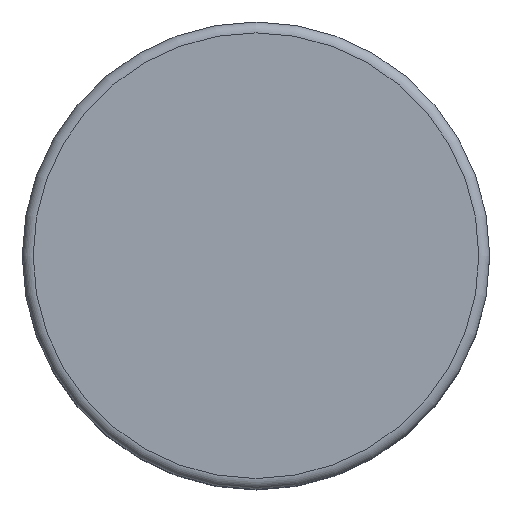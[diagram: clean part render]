
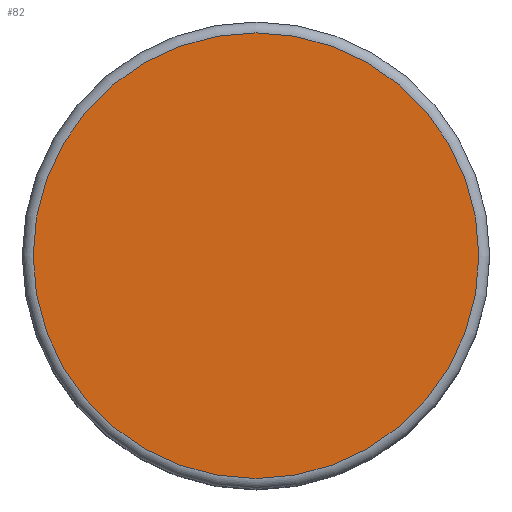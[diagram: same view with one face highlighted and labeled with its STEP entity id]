
A CAD part, top view. The second image highlights one B-rep face of the part: STEP entity #82.
In plain terms, the highlighted planar face has unit normal (0, 0, 1).
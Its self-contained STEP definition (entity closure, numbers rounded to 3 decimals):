
#82 = ADVANCED_FACE( '', ( #114 ), #115, .F. );
#114 = FACE_OUTER_BOUND( '', #164, .T. );
#115 = PLANE( '', #165 );
#164 = EDGE_LOOP( '', ( #252 ) );
#165 = AXIS2_PLACEMENT_3D( '', #253, #254, #255 );
#252 = ORIENTED_EDGE( '', *, *, #328, .T. );
#253 = CARTESIAN_POINT( '', ( 0., 0., 29.7 ) );
#254 = DIRECTION( '', ( 0., 0., -1. ) );
#255 = DIRECTION( '', ( -1., 0., 0. ) );
#328 = EDGE_CURVE( '', #366, #366, #367, .F. );
#366 = VERTEX_POINT( '', #428 );
#367 = CIRCLE( '', #429, 20.5 );
#428 = CARTESIAN_POINT( '', ( -20.5, 0., 29.7 ) );
#429 = AXIS2_PLACEMENT_3D( '', #502, #503, #504 );
#502 = CARTESIAN_POINT( '', ( 0., 0., 29.7 ) );
#503 = DIRECTION( '', ( 0., 0., -1. ) );
#504 = DIRECTION( '', ( -1., 0., 0. ) );
